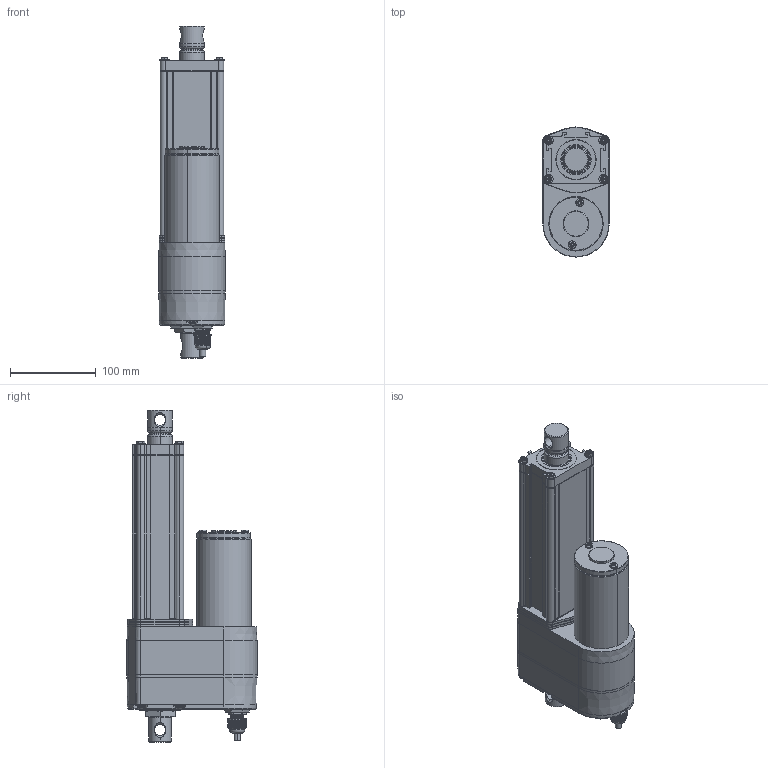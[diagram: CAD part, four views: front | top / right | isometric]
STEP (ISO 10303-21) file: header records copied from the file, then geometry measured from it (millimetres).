
FILE_DESCRIPTION((''),' ');
FILE_NAME('dszy12-100-lt_ltpot_lths.stp',' ',('r'),('r'),' ','ACIS 14.0',' ');
FILE_SCHEMA(('automotive_design'));
Length unit declared in the file: inch
Products named in the file (2): DSZY12-100-LT-LTPOT-LTHS
Bounding box: 77.3 x 151.8 x 387.5 mm (x, y, z)
Volume: 2155275.3 mm3; surface area: 225079.3 mm2
Topology: 2 solids, 30 shells, 2602 faces, 6709 edges, 4241 vertices
Faces by surface type: plane 1369, cylinder 797, bspline 163, cone 133, torus 124, sphere 16
Entity records: 109118 total; most frequent: CARTESIAN_POINT 27936, ORIENTED_EDGE 13358, DIRECTION 11788, EDGE_CURVE 6679, AXIS2_PLACEMENT_3D 4248, VERTEX_POINT 4241, LINE 3292, VECTOR 3292
